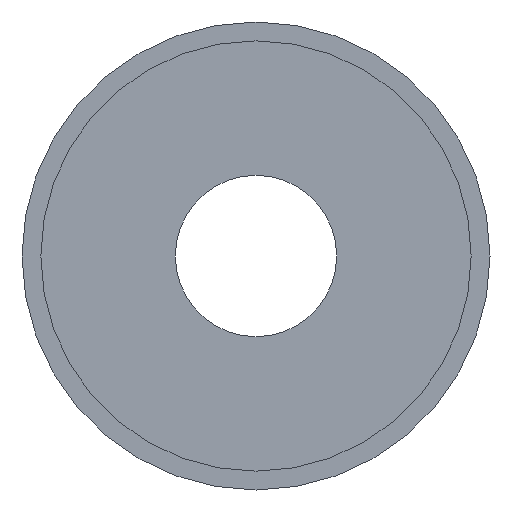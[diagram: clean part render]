
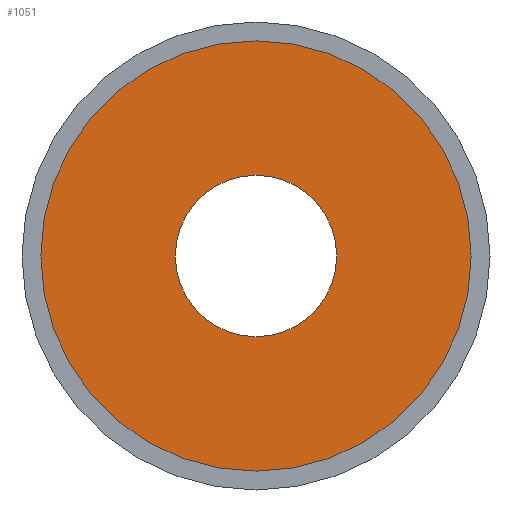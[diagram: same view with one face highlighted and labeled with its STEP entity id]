
A CAD part, front view. The second image highlights one B-rep face of the part: STEP entity #1051.
In plain terms, the highlighted planar face has unit normal (0, -1, 0).
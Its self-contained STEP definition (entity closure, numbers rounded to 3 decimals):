
#113 = PLANE ( 'NONE',  #3259 ) ;
#239 = ORIENTED_EDGE ( 'NONE', *, *, #286, .T. ) ;
#286 = EDGE_CURVE ( 'NONE', #1435, #2667, #1920, .T. ) ;
#288 = ORIENTED_EDGE ( 'NONE', *, *, #772, .F. ) ;
#343 = DIRECTION ( 'NONE',  ( 0., 0., -1. ) ) ;
#374 = CARTESIAN_POINT ( 'NONE',  ( 0., -16.5, -40. ) ) ;
#378 = CIRCLE ( 'NONE', #2599, 40. ) ;
#772 = EDGE_CURVE ( 'NONE', #2103, #2062, #1332, .T. ) ;
#895 = DIRECTION ( 'NONE',  ( 0., 0., 1. ) ) ;
#912 = ORIENTED_EDGE ( 'NONE', *, *, #946, .F. ) ;
#946 = EDGE_CURVE ( 'NONE', #2062, #2103, #3123, .T. ) ;
#1051 = ADVANCED_FACE ( 'NONE', ( #3090, #1721 ), #113, .F. ) ;
#1208 = ORIENTED_EDGE ( 'NONE', *, *, #2339, .T. ) ;
#1332 = CIRCLE ( 'NONE', #1661, 15. ) ;
#1435 = VERTEX_POINT ( 'NONE', #374 ) ;
#1505 = DIRECTION ( 'NONE',  ( 0., -1., 0. ) ) ;
#1661 = AXIS2_PLACEMENT_3D ( 'NONE', #2033, #2269, #2295 ) ;
#1691 = CARTESIAN_POINT ( 'NONE',  ( 0., -16.5, 40. ) ) ;
#1721 = FACE_OUTER_BOUND ( 'NONE', #2149, .T. ) ;
#1765 = CARTESIAN_POINT ( 'NONE',  ( 0., -16.5, 0. ) ) ;
#1846 = CARTESIAN_POINT ( 'NONE',  ( 0., -16.5, 0. ) ) ;
#1895 = EDGE_LOOP ( 'NONE', ( #288, #912 ) ) ;
#1920 = CIRCLE ( 'NONE', #2824, 40. ) ;
#2033 = CARTESIAN_POINT ( 'NONE',  ( 0., -16.5, 0. ) ) ;
#2034 = DIRECTION ( 'NONE',  ( 0., 0., -1. ) ) ;
#2061 = CARTESIAN_POINT ( 'NONE',  ( 0., -16.5, 0. ) ) ;
#2062 = VERTEX_POINT ( 'NONE', #3210 ) ;
#2103 = VERTEX_POINT ( 'NONE', #3232 ) ;
#2149 = EDGE_LOOP ( 'NONE', ( #239, #1208 ) ) ;
#2154 = CARTESIAN_POINT ( 'NONE',  ( 0., -16.5, 15. ) ) ;
#2269 = DIRECTION ( 'NONE',  ( 0., -1., 0. ) ) ;
#2295 = DIRECTION ( 'NONE',  ( 0., 0., -1. ) ) ;
#2339 = EDGE_CURVE ( 'NONE', #2667, #1435, #378, .T. ) ;
#2342 = DIRECTION ( 'NONE',  ( 0., -1., 0. ) ) ;
#2347 = DIRECTION ( 'NONE',  ( 0., -1., 0. ) ) ;
#2599 = AXIS2_PLACEMENT_3D ( 'NONE', #1765, #1505, #2034 ) ;
#2667 = VERTEX_POINT ( 'NONE', #1691 ) ;
#2824 = AXIS2_PLACEMENT_3D ( 'NONE', #1846, #2342, #343 ) ;
#2916 = AXIS2_PLACEMENT_3D ( 'NONE', #2061, #2347, #3109 ) ;
#2928 = DIRECTION ( 'NONE',  ( 0., 1., 0. ) ) ;
#3090 = FACE_BOUND ( 'NONE', #1895, .T. ) ;
#3109 = DIRECTION ( 'NONE',  ( 0., 0., -1. ) ) ;
#3123 = CIRCLE ( 'NONE', #2916, 15. ) ;
#3210 = CARTESIAN_POINT ( 'NONE',  ( 0., -16.5, 15. ) ) ;
#3232 = CARTESIAN_POINT ( 'NONE',  ( 0., -16.5, -15. ) ) ;
#3259 = AXIS2_PLACEMENT_3D ( 'NONE', #2154, #2928, #895 ) ;
